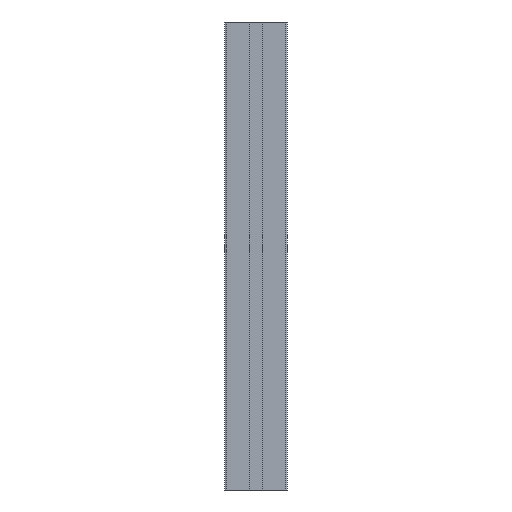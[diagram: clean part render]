
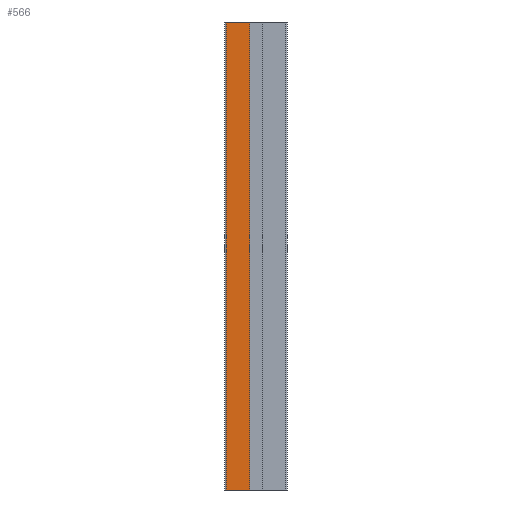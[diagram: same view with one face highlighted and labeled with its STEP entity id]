
A CAD part, left-side view. The second image highlights one B-rep face of the part: STEP entity #566.
In plain terms, the highlighted planar face has unit normal (-1, 0, 0).
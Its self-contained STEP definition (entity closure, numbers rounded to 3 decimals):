
#24 = AXIS2_PLACEMENT_3D ( 'NONE', #371, #1554, #1160 ) ;
#28 = LINE ( 'NONE', #787, #1828 ) ;
#40 = CARTESIAN_POINT ( 'NONE',  ( 7936.542, 2649.294, 0. ) ) ;
#43 = ORIENTED_EDGE ( 'NONE', *, *, #1135, .T. ) ;
#160 = DIRECTION ( 'NONE',  ( 0., -1., 0. ) ) ;
#232 = ORIENTED_EDGE ( 'NONE', *, *, #1681, .F. ) ;
#371 = CARTESIAN_POINT ( 'NONE',  ( 7936.542, 2634.194, 300. ) ) ;
#566 = ADVANCED_FACE ( 'NONE', ( #611 ), #1146, .F. ) ;
#611 = FACE_OUTER_BOUND ( 'NONE', #832, .T. ) ;
#633 = VERTEX_POINT ( 'NONE', #1315 ) ;
#642 = VERTEX_POINT ( 'NONE', #40 ) ;
#759 = VERTEX_POINT ( 'NONE', #2056 ) ;
#786 = EDGE_CURVE ( 'NONE', #759, #642, #1031, .T. ) ;
#787 = CARTESIAN_POINT ( 'NONE',  ( 7936.542, 2634.194, 300. ) ) ;
#832 = EDGE_LOOP ( 'NONE', ( #43, #232, #1447, #2047 ) ) ;
#978 = VECTOR ( 'NONE', #1999, 1000. ) ;
#983 = VERTEX_POINT ( 'NONE', #1945 ) ;
#1025 = EDGE_CURVE ( 'NONE', #759, #983, #28, .T. ) ;
#1031 = LINE ( 'NONE', #1064, #978 ) ;
#1058 = VECTOR ( 'NONE', #1646, 1000. ) ;
#1064 = CARTESIAN_POINT ( 'NONE',  ( 7936.542, 2649.294, 300. ) ) ;
#1135 = EDGE_CURVE ( 'NONE', #642, #633, #1940, .T. ) ;
#1146 = PLANE ( 'NONE',  #24 ) ;
#1160 = DIRECTION ( 'NONE',  ( 0., 0., -1. ) ) ;
#1298 = LINE ( 'NONE', #1644, #2063 ) ;
#1315 = CARTESIAN_POINT ( 'NONE',  ( 7936.542, 2634.194, 0. ) ) ;
#1447 = ORIENTED_EDGE ( 'NONE', *, *, #1025, .F. ) ;
#1482 = CARTESIAN_POINT ( 'NONE',  ( 7936.542, 2634.194, 0. ) ) ;
#1554 = DIRECTION ( 'NONE',  ( 1., 0., 0. ) ) ;
#1644 = CARTESIAN_POINT ( 'NONE',  ( 7936.542, 2634.194, 300. ) ) ;
#1646 = DIRECTION ( 'NONE',  ( 0., -1., 0. ) ) ;
#1681 = EDGE_CURVE ( 'NONE', #983, #633, #1298, .T. ) ;
#1689 = DIRECTION ( 'NONE',  ( 0., 0., -1. ) ) ;
#1828 = VECTOR ( 'NONE', #160, 1000. ) ;
#1940 = LINE ( 'NONE', #1482, #1058 ) ;
#1945 = CARTESIAN_POINT ( 'NONE',  ( 7936.542, 2634.194, 300. ) ) ;
#1999 = DIRECTION ( 'NONE',  ( 0., 0., -1. ) ) ;
#2047 = ORIENTED_EDGE ( 'NONE', *, *, #786, .T. ) ;
#2056 = CARTESIAN_POINT ( 'NONE',  ( 7936.542, 2649.294, 300. ) ) ;
#2063 = VECTOR ( 'NONE', #1689, 1000. ) ;
